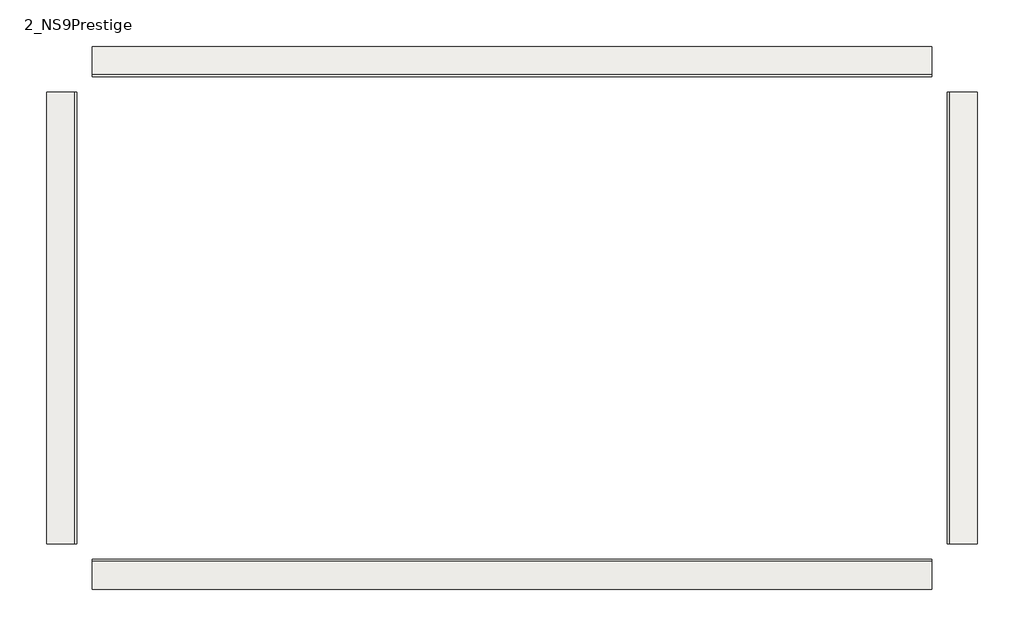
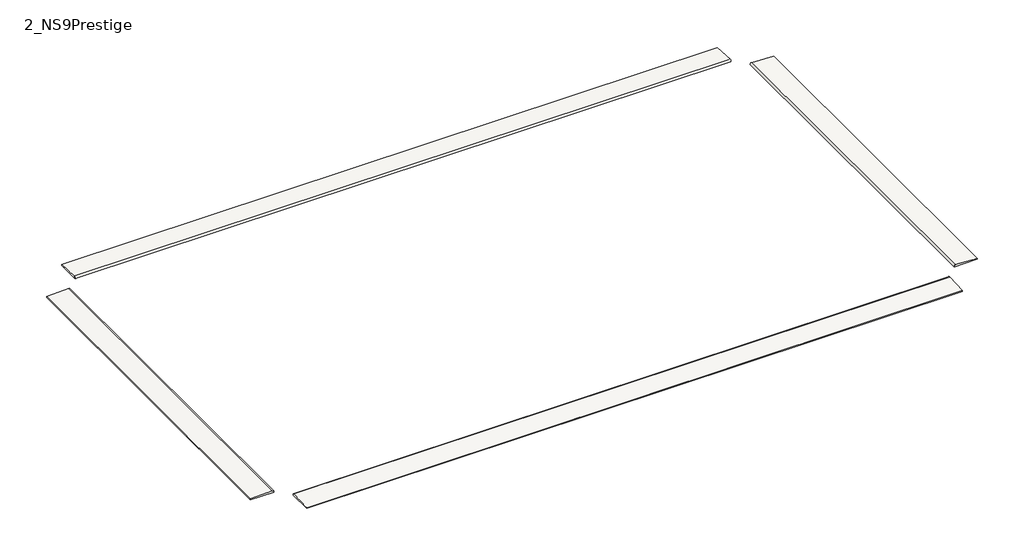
# One storey: 4 slabs.
"""IFC4 building model written with IfcOpenShell, lengths in millimetres."""

from ifc_helpers import new_model, si_unit, origin, place, context, project, spatial, transform, mapped, element, save
from components import slab_63c91a64, slab_10aa9b85, slab_2631fdd8, slab_7903fd34

model = new_model("IFC4")

# Units and contexts
model_context = context("Model", 3, world=origin())
ifc_project = project(units=[si_unit("LENGTHUNIT", "METRE", prefix="MILLI")], contexts=[model_context])

# Site, building, storey
site = spatial("IfcSite", under=ifc_project)
building = spatial("IfcBuilding", under=site)
storey = spatial("IfcBuildingStorey", under=building, Name="2_NS9Prestige", Elevation=-245.0)

# Slabs
placement = place(None, origin())
slab_shape = slab_63c91a64(model_context)
element("IfcSlab", 1, ObjectType="ROSA GRES_S62 : Pieza S62_Serena_Ocra_Anti-Slip", at=placement, inside=storey, context=model_context, shape_type="MappedRepresentation", body=[
    mapped(slab_shape, transform((2989.8845491, 11915.5279493, 0.0), x_axis=(0.0, -1.0, 0.0), y_axis=(1.0, 0.0, 0.0), z_axis=(0.0, 0.0, 1.0))),
])
slab_2_shape = slab_10aa9b85(model_context)
element("IfcSlab", 2, ObjectType="ROSA GRES_S62 : Pieza S62_Serena_Ocra_Anti-Slip", at=placement, inside=storey, context=model_context, shape_type="MappedRepresentation", body=[
    mapped(slab_2_shape, transform((11828.0177008, 12094.1311359, 0.0), x_axis=(-1.0, 0.0, 0.0), y_axis=(0.0, -1.0, 0.0), z_axis=(0.0, 0.0, 1.0))),
])
slab_3_shape = slab_2631fdd8(model_context)
element("IfcSlab", 3, ObjectType="ROSA GRES_S62 : Pieza S62_Serena_Ocra_Anti-Slip", at=placement, inside=storey, context=model_context, shape_type="MappedRepresentation", body=[
    mapped(slab_3_shape, transform((12008.0177075, 11914.6921087, 0.0), x_axis=(0.0, -1.0, 0.0), y_axis=(1.0, 0.0, 0.0), z_axis=(0.0, 0.0, 1.0))),
])
slab_4_shape = slab_7903fd34(model_context)
element("IfcSlab", 4, ObjectType="ROSA GRES_S62 : Pieza S62_Serena_Ocra_Anti-Slip", at=placement, inside=storey, context=model_context, shape_type="MappedRepresentation", body=[
    mapped(slab_4_shape, transform((11828.6567137, 7075.5279493, 0.0), x_axis=(-1.0, 0.0, 0.0), y_axis=(0.0, -1.0, 0.0), z_axis=(0.0, 0.0, 1.0))),
])

save(model, "model.ifc")
